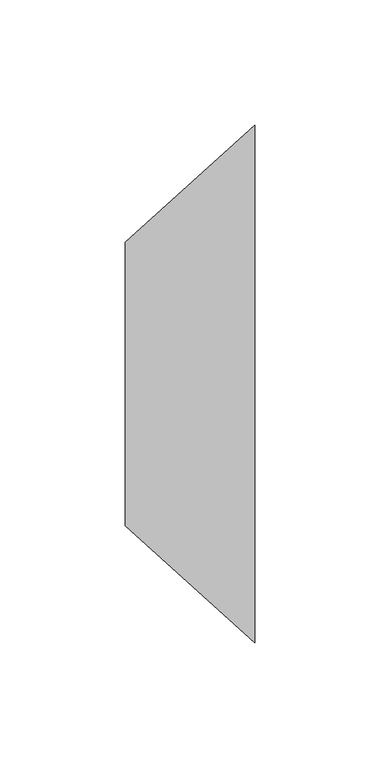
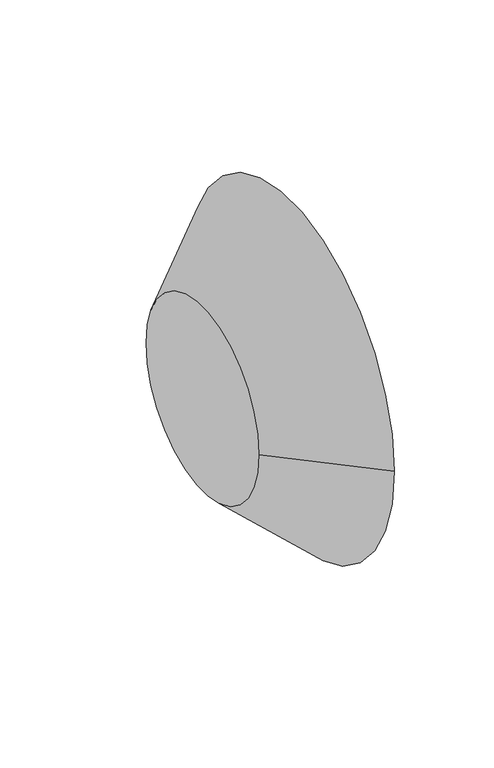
"""IFC4 building model written with IfcOpenShell, lengths in millimetres: pipe fitting geometry, M_Transición - Genérica : Estándar."""

from ifc_helpers import new_model, si_unit, frame, origin, place, context, project, spatial, circle_curve, source, transform, mapped, element, save
from ifc_brep_helpers import plane_surface, spline_surface, advanced_brep


def pipe_fitting_07a635c1(model_context):
    return source(origin(), model_context, "Body", "AdvancedBrep", [
        advanced_brep(
        [(51.59375, -103.1854834, 0.0255633), (51.59375, 103.1895166, 0.0255633), (0.0, -56.5875, 0.0), (0.0, 56.5875, 0.0)],
        [
            (0, 1, circle_curve(frame((51.59375, 0.0020166, 0.0255633), z_axis=(1.0, 0.0, 0.0), x_axis=(0.0, 1.0, 0.0)), 103.1875)),
            (1, 0, circle_curve(frame((51.59375, 0.0020166, 0.0255633), z_axis=(1.0, 0.0, 0.0), x_axis=(0.0, 1.0, 0.0)), 103.1875)),
            (2, 3, circle_curve(frame((0.0, 0.0, 0.0), z_axis=(-1.0, 0.0, 0.0), x_axis=(0.0, 1.0, 0.0)), 56.5875)),
            (3, 2, circle_curve(frame((0.0, 0.0, 0.0), z_axis=(-1.0, 0.0, 0.0), x_axis=(0.0, 1.0, 0.0)), 56.5875)),
            (3, 1),
            (0, 2),
        ],
        [
            plane_surface(frame((51.59375, 0.0020166, 0.0255633), z_axis=(1.0, 0.0, 0.0), x_axis=(0.0, 0.0, -1.0))),
            plane_surface(frame((0.0, 0.0, 0.0), z_axis=(-1.0, 0.0, 0.0), x_axis=(0.0, 0.0, -1.0))),
            spline_surface(2, 1, [[(0.0, -56.5875, 0.0), (51.59375, -103.1854834, 0.0255633)], [(0.0, -56.5875, -56.5875), (51.59375, -103.1854834, -103.1619367)], [(0.0, 0.0, -56.5875), (51.59375, 0.0020166, -103.1619367)], [(0.0, 56.5875, -56.5875), (51.59375, 103.1895166, -103.1619367)], [(0.0, 56.5875, 0.0), (51.59375, 103.1895166, 0.0255633)]], [3, 2, 3], [2, 2], [0.0, 1.0, 2.0], [0.0, 1.0], weights=[[1.0, 1.0], [0.7071067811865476, 0.7071067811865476], [1.0, 1.0], [0.7071067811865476, 0.7071067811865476], [1.0, 1.0]]),
            spline_surface(2, 1, [[(0.0, 56.5875, 0.0), (51.59375, 103.1895166, 0.0255633)], [(0.0, 56.5875, 56.5875), (51.59375, 103.1895166, 103.2130633)], [(0.0, 0.0, 56.5875), (51.59375, 0.0020166, 103.2130633)], [(0.0, -56.5875, 56.5875), (51.59375, -103.1854834, 103.2130633)], [(0.0, -56.5875, 0.0), (51.59375, -103.1854834, 0.0255633)]], [3, 2, 3], [2, 2], [0.0, 1.0, 2.0], [0.0, 1.0], weights=[[1.0, 1.0], [0.7071067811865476, 0.7071067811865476], [1.0, 1.0], [0.7071067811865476, 0.7071067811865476], [1.0, 1.0]]),
        ],
        [
            (0, [[1, 2]]),
            (1, [[3, 4]]),
            (2, [[-4, 5, -1, 6]]),
            (3, [[-3, -6, -2, -5]]),
        ],
    ),
    ])


if __name__ == "__main__":
    model = new_model("IFC4")
    model_context = context("Model", 3, world=origin())
    ifc_project = project(units=[si_unit("LENGTHUNIT", "METRE", prefix="MILLI")], contexts=[model_context])
    site = spatial("IfcSite", under=ifc_project)
    building = spatial("IfcBuilding", under=site)
    placement = place(None, origin())
    pipe_fitting_shape = pipe_fitting_07a635c1(model_context)
    element("IfcPipeFitting", 1, ObjectType="M_Transición - Genérica : Estándar", at=placement, inside=building, context=model_context, shape_type="MappedRepresentation", body=[
        mapped(pipe_fitting_shape, transform((0.0, 0.0, 0.0), x_axis=(1.0, 0.0, 0.0), y_axis=(0.0, 1.0, 0.0), z_axis=(0.0, 0.0, 1.0))),
    ])
    save(model, "model.ifc")
